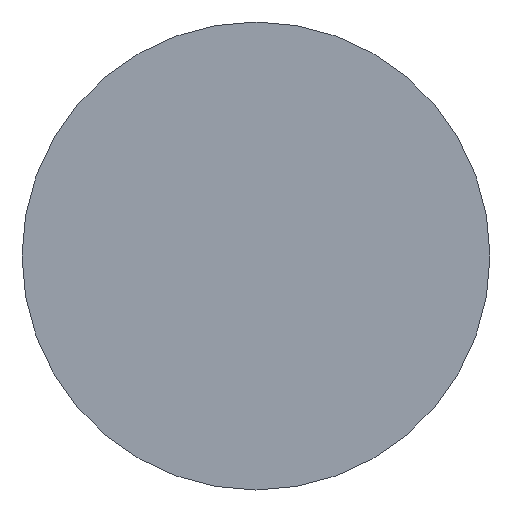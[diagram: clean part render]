
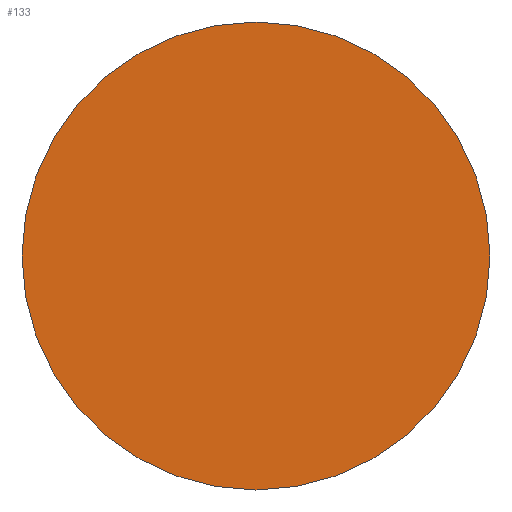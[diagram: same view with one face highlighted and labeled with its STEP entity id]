
A CAD part, left-side view. The second image highlights one B-rep face of the part: STEP entity #133.
In plain terms, the highlighted planar face has unit normal (-1, 0, 0).
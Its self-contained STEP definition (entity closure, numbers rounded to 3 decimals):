
#3 = CARTESIAN_POINT ( 'NONE',  ( -449.5, 0., 5.5 ) ) ;
#9 = VERTEX_POINT ( 'NONE', #3 ) ;
#16 = CARTESIAN_POINT ( 'NONE',  ( -449.5, 0., 0. ) ) ;
#29 = EDGE_LOOP ( 'NONE', ( #31, #33 ) ) ;
#31 = ORIENTED_EDGE ( 'NONE', *, *, #111, .T. ) ;
#33 = ORIENTED_EDGE ( 'NONE', *, *, #122, .T. ) ;
#45 = CIRCLE ( 'NONE', #115, 5.5 ) ;
#47 = CIRCLE ( 'NONE', #113, 5.5 ) ;
#60 = VERTEX_POINT ( 'NONE', #73 ) ;
#64 = CARTESIAN_POINT ( 'NONE',  ( -449.5, 0., 0. ) ) ;
#73 = CARTESIAN_POINT ( 'NONE',  ( -449.5, 0., -5.5 ) ) ;
#74 = CARTESIAN_POINT ( 'NONE',  ( -449.5, 0., 0. ) ) ;
#77 = DIRECTION ( 'NONE',  ( -1., 0., 0. ) ) ;
#78 = DIRECTION ( 'NONE',  ( 0., 0., 1. ) ) ;
#79 = DIRECTION ( 'NONE',  ( 0., 0., 1. ) ) ;
#80 = DIRECTION ( 'NONE',  ( -1., 0., 0. ) ) ;
#107 = DIRECTION ( 'NONE',  ( 0., 0., 1. ) ) ;
#108 = DIRECTION ( 'NONE',  ( -1., 0., 0. ) ) ;
#110 = PLANE ( 'NONE',  #119 ) ;
#111 = EDGE_CURVE ( 'NONE', #9, #60, #45, .T. ) ;
#113 = AXIS2_PLACEMENT_3D ( 'NONE', #64, #80, #79 ) ;
#115 = AXIS2_PLACEMENT_3D ( 'NONE', #16, #77, #78 ) ;
#119 = AXIS2_PLACEMENT_3D ( 'NONE', #74, #108, #107 ) ;
#122 = EDGE_CURVE ( 'NONE', #60, #9, #47, .T. ) ;
#133 = ADVANCED_FACE ( 'NONE', ( #139 ), #110, .T. ) ;
#139 = FACE_OUTER_BOUND ( 'NONE', #29, .T. ) ;
